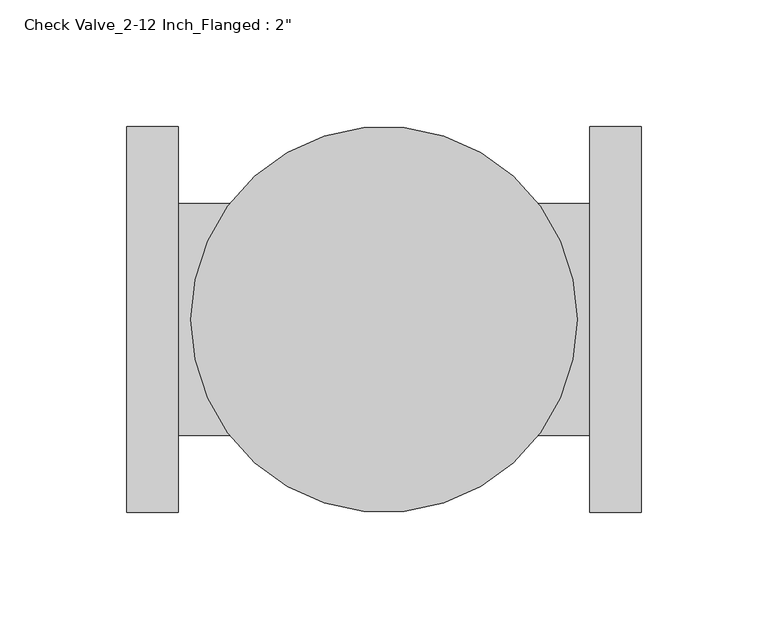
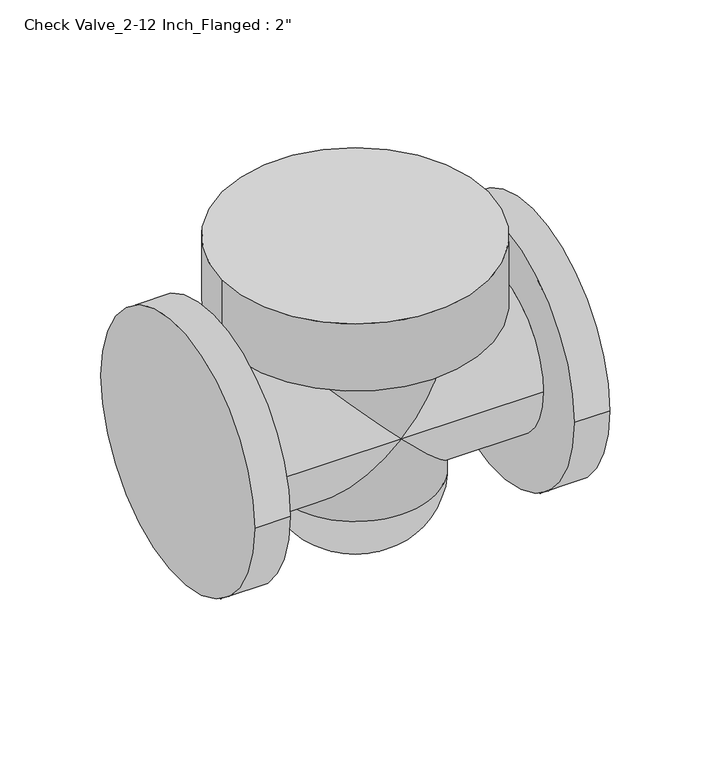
"""IFC4 building model written with IfcOpenShell, lengths in millimetres: valve geometry."""

from ifc_helpers import new_model, si_unit, point, frame, origin, place, context, project, spatial, circle_curve, ellipse_curve, trimmed, source, transform, mapped, element, save
from ifc_brep_helpers import plane_surface, cylinder_surface, revolved_surface, advanced_brep


def valve_ac2393f4(model_context):
    return source(origin(), model_context, "Body", "AdvancedBrep", [
        advanced_brep(
        [(81.28, -45.72, 0.0), (0.0, -45.72, 0.0), (45.72, 0.0, -45.72), (0.0, 45.72, 0.0), (81.28, 45.72, 0.0), (-81.28, -45.72, 0.0), (-81.28, 45.72, 0.0), (-45.72, 0.0, -45.72), (45.72, 0.0, 45.72), (-45.72, 0.0, 45.72), (-45.72, 0.0, 54.61), (45.72, 0.0, 54.61), (-76.2, 0.0, 95.25), (76.2, 0.0, 95.25), (-76.2, 0.0, 54.61), (76.2, 0.0, 54.61), (101.6, -76.2, 0.0), (101.6, 76.2, 0.0), (81.28, -76.2, 0.0), (81.28, 76.2, 0.0), (-81.28, -76.2, 0.0), (-81.28, 76.2, 0.0), (-101.6, -76.2, 0.0), (-101.6, 76.2, 0.0), (7.62, 0.0, -83.82), (-7.62, 0.0, -83.82), (0.0, 0.0, -83.82)],
        [
            (0, 1),
            (1, 2, ellipse_curve(frame((0.0, 0.0, 0.0), z_axis=(0.7071067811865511, 0.0, 0.7071067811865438), x_axis=(0.7071067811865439, 0.0, -0.7071067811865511)), 64.6578441, 45.72)),
            (2, 3, ellipse_curve(frame((0.0, 0.0, 0.0), z_axis=(0.7071067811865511, 0.0, 0.7071067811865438), x_axis=(0.7071067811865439, 0.0, -0.7071067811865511)), 64.6578441, 45.72)),
            (3, 4),
            (4, 0, circle_curve(frame((81.28, 0.0, 0.0), z_axis=(-1.0, 0.0, 0.0), x_axis=(0.0, 1.0, 0.0)), 45.72)),
            (1, 5),
            (5, 6, circle_curve(frame((-81.28, 0.0, 0.0), z_axis=(1.0, 0.0, 0.0), x_axis=(0.0, 1.0, 0.0)), 45.72)),
            (6, 3),
            (3, 7, ellipse_curve(frame((0.0, 0.0, 0.0), z_axis=(-0.7071067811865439, 0.0, 0.7071067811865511), x_axis=(0.7071067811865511, 0.0, 0.7071067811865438)), 64.6578441, 45.72)),
            (7, 1, ellipse_curve(frame((0.0, 0.0, 0.0), z_axis=(-0.7071067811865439, 0.0, 0.7071067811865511), x_axis=(0.7071067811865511, 0.0, 0.7071067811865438)), 64.6578441, 45.72)),
            (0, 4, circle_curve(frame((81.28, 0.0, 0.0), z_axis=(-1.0, 0.0, 0.0), x_axis=(0.0, 1.0, 0.0)), 45.72)),
            (3, 8, ellipse_curve(frame((0.0, 0.0, 0.0), z_axis=(0.7071067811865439, 0.0, -0.7071067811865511), x_axis=(0.7071067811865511, 0.0, 0.7071067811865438)), 64.6578441, 45.72)),
            (8, 1, ellipse_curve(frame((0.0, 0.0, 0.0), z_axis=(0.7071067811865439, 0.0, -0.7071067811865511), x_axis=(0.7071067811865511, 0.0, 0.7071067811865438)), 64.6578441, 45.72)),
            (1, 9, ellipse_curve(frame((0.0, 0.0, 0.0), z_axis=(-0.7071067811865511, 0.0, -0.7071067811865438), x_axis=(0.7071067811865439, 0.0, -0.7071067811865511)), 64.6578441, 45.72)),
            (9, 3, ellipse_curve(frame((0.0, 0.0, 0.0), z_axis=(-0.7071067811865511, 0.0, -0.7071067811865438), x_axis=(0.7071067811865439, 0.0, -0.7071067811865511)), 64.6578441, 45.72)),
            (6, 5, circle_curve(frame((-81.28, 0.0, 0.0), z_axis=(1.0, 0.0, 0.0), x_axis=(0.0, 1.0, 0.0)), 45.72)),
            (10, 9),
            (8, 11),
            (11, 10, circle_curve(frame((0.0, 0.0, 54.61), z_axis=(0.0, 0.0, -1.0), x_axis=(1.0, 0.0, 0.0)), 45.72)),
            (7, 2, circle_curve(frame((0.0, 0.0, -45.72), z_axis=(0.0, 0.0, 1.0), x_axis=(1.0, 0.0, 0.0)), 45.72)),
            (10, 11, circle_curve(frame((0.0, 0.0, 54.61), z_axis=(0.0, 0.0, -1.0), x_axis=(1.0, 0.0, 0.0)), 45.72)),
            (2, 7, circle_curve(frame((0.0, 0.0, -45.72), z_axis=(0.0, 0.0, 1.0), x_axis=(1.0, 0.0, 0.0)), 45.72)),
            (12, 13, circle_curve(frame((0.0, 0.0, 95.25), z_axis=(0.0, 0.0, 1.0), x_axis=(1.0, 0.0, 0.0)), 76.2)),
            (13, 12, circle_curve(frame((0.0, 0.0, 95.25), z_axis=(0.0, 0.0, 1.0), x_axis=(1.0, 0.0, 0.0)), 76.2)),
            (14, 15, circle_curve(frame((0.0, 0.0, 54.61), z_axis=(0.0, 0.0, -1.0), x_axis=(1.0, 0.0, 0.0)), 76.2)),
            (15, 14, circle_curve(frame((0.0, 0.0, 54.61), z_axis=(0.0, 0.0, -1.0), x_axis=(1.0, 0.0, 0.0)), 76.2)),
            (12, 14),
            (15, 13),
            (16, 17, circle_curve(frame((101.6, 0.0, 0.0), z_axis=(1.0, 0.0, 0.0), x_axis=(0.0, 1.0, 0.0)), 76.2)),
            (17, 16, circle_curve(frame((101.6, 0.0, 0.0), z_axis=(1.0, 0.0, 0.0), x_axis=(0.0, 1.0, 0.0)), 76.2)),
            (18, 19, circle_curve(frame((81.28, 0.0, 0.0), z_axis=(-1.0, 0.0, 0.0), x_axis=(0.0, 1.0, 0.0)), 76.2)),
            (19, 18, circle_curve(frame((81.28, 0.0, 0.0), z_axis=(-1.0, 0.0, 0.0), x_axis=(0.0, 1.0, 0.0)), 76.2)),
            (16, 18),
            (19, 17),
            (20, 21, circle_curve(frame((-81.28, 0.0, 0.0), z_axis=(1.0, 0.0, 0.0), x_axis=(0.0, 1.0, 0.0)), 76.2)),
            (21, 20, circle_curve(frame((-81.28, 0.0, 0.0), z_axis=(1.0, 0.0, 0.0), x_axis=(0.0, 1.0, 0.0)), 76.2)),
            (22, 23, circle_curve(frame((-101.6, 0.0, 0.0), z_axis=(-1.0, 0.0, 0.0), x_axis=(0.0, 1.0, 0.0)), 76.2)),
            (23, 22, circle_curve(frame((-101.6, 0.0, 0.0), z_axis=(-1.0, 0.0, 0.0), x_axis=(0.0, 1.0, 0.0)), 76.2)),
            (20, 22),
            (23, 21),
            (24, 25, circle_curve(frame((0.0, 0.0, -83.82), z_axis=(0.0, 0.0, 1.0), x_axis=(-1.0, 0.0, 0.0)), 7.62)),
            (25, 7, circle_curve(frame((-7.62, 0.0, -45.72), z_axis=(0.0, 1.0, 0.0), x_axis=(1.0, 0.0, 0.0)), 38.1)),
            (2, 24, circle_curve(frame((7.62, 0.0, -45.72), z_axis=(0.0, 1.0, 0.0), x_axis=(-1.0, 0.0, 0.0)), 38.1)),
            (25, 24, circle_curve(frame((0.0, 0.0, -83.82), z_axis=(0.0, 0.0, 1.0), x_axis=(-1.0, 0.0, 0.0)), 7.62)),
            (24, 26),
            (26, 25),
        ],
        [
            cylinder_surface(frame((-81.28, 0.0, 0.0), z_axis=(1.0, 0.0, 0.0), x_axis=(0.0, 1.0, 0.0)), 45.72),
            cylinder_surface(frame((0.0, 0.0, -45.72), z_axis=(0.0, 0.0, 1.0), x_axis=(1.0, 0.0, 0.0)), 45.72),
            plane_surface(frame((76.2, 0.0, 95.25), z_axis=(0.0, 0.0, 1.0), x_axis=(0.0, 1.0, 0.0))),
            plane_surface(frame((76.2, 0.0, 54.61), z_axis=(0.0, 0.0, -1.0), x_axis=(0.0, -1.0, 0.0))),
            cylinder_surface(frame((0.0, 0.0, 54.61), z_axis=(0.0, 0.0, 1.0), x_axis=(1.0, 0.0, 0.0)), 76.2),
            plane_surface(frame((101.6, 76.2, 0.0), z_axis=(1.0, 0.0, 0.0), x_axis=(0.0, 0.0, 1.0))),
            plane_surface(frame((81.28, 76.2, 0.0), z_axis=(-1.0, 0.0, 0.0), x_axis=(0.0, 0.0, -1.0))),
            cylinder_surface(frame((81.28, 0.0, 0.0), z_axis=(1.0, 0.0, 0.0), x_axis=(0.0, 1.0, 0.0)), 76.2),
            plane_surface(frame((-81.28, 76.2, 0.0), z_axis=(1.0, 0.0, 0.0), x_axis=(0.0, 0.0, 1.0))),
            plane_surface(frame((-101.6, 76.2, 0.0), z_axis=(-1.0, 0.0, 0.0), x_axis=(0.0, 0.0, -1.0))),
            cylinder_surface(frame((-101.6, 0.0, 0.0), z_axis=(1.0, 0.0, 0.0), x_axis=(0.0, 1.0, 0.0)), 76.2),
            revolved_surface(trimmed(ellipse_curve(frame((-7.62, 0.0, -45.72), z_axis=(0.0, -1.0, 0.0), x_axis=(1.0, 0.0, 0.0)), 38.1, 38.1), [point((-45.72, 0.0, -45.72))], [point((-7.62, 0.0, -83.82))], True, "CARTESIAN"), (0.0, 0.0, -102.87), (0.0, 0.0, -1.0)),
            plane_surface(frame((0.0, 0.0, -83.82), z_axis=(0.0, 0.0, -1.0), x_axis=(-1.0, 0.0, 0.0))),
        ],
        [
            (0, [[1, 2, 3, 4, 5]]),
            (0, [[6, 7, 8, 9, 10]]),
            (0, [[-1, 11, -4, 12, 13]]),
            (0, [[-6, 14, 15, -8, 16]]),
            (1, [[17, -14, -13, 18, 19]]),
            (1, [[-10, 20, -2]]),
            (1, [[-17, 21, -18, -12, -15]]),
            (1, [[-9, -3, 22]]),
            (2, [[23, 24]]),
            (3, [[25, 26], [-19, -21]]),
            (4, [[-23, 27, -26, 28]]),
            (4, [[-24, -28, -25, -27]]),
            (5, [[29, 30]]),
            (6, [[31, 32], [-5, -11]]),
            (7, [[-29, 33, -32, 34]]),
            (7, [[-30, -34, -31, -33]]),
            (8, [[35, 36], [-7, -16]]),
            (9, [[37, 38]]),
            (10, [[-35, 39, -38, 40]]),
            (10, [[-36, -40, -37, -39]]),
            (11, [[41, 42, -22, 43]]),
            (11, [[-42, 44, -43, -20]]),
            (12, [[-41, 45, 46]]),
            (12, [[-44, -46, -45]]),
        ],
    ),
    ])


if __name__ == "__main__":
    model = new_model("IFC4")
    model_context = context("Model", 3, world=origin())
    ifc_project = project(units=[si_unit("LENGTHUNIT", "METRE", prefix="MILLI")], contexts=[model_context])
    site = spatial("IfcSite", under=ifc_project)
    building = spatial("IfcBuilding", under=site)
    placement = place(None, origin())
    valve_shape = valve_ac2393f4(model_context)
    element("IfcValve", 1, ObjectType="Check Valve_2-12 Inch_Flanged : 2\"", at=placement, inside=building, context=model_context, shape_type="MappedRepresentation", body=[
        mapped(valve_shape, transform((0.0, 0.0, 0.0), x_axis=(1.0, 0.0, 0.0), y_axis=(0.0, 1.0, 0.0), z_axis=(0.0, 0.0, 1.0))),
    ])
    save(model, "model.ifc")
